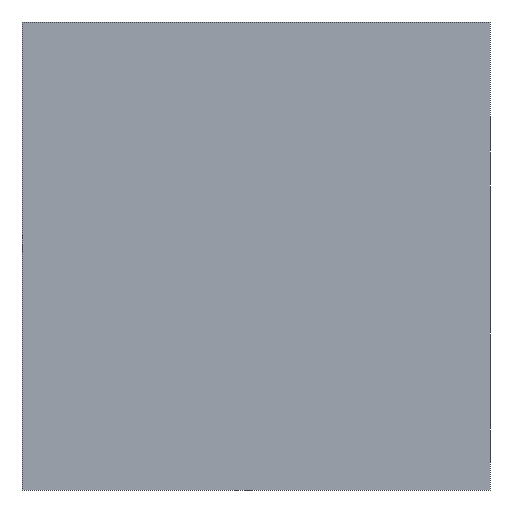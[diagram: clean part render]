
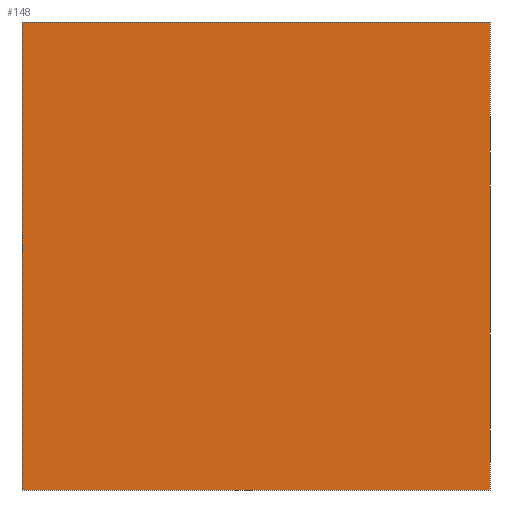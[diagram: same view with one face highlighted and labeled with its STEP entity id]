
A CAD part, front view. The second image highlights one B-rep face of the part: STEP entity #148.
In plain terms, the highlighted planar face has unit normal (0, -1, 0).
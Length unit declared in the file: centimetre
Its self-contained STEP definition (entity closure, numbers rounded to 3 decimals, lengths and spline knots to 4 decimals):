
#3 = LINE ( 'NONE', #405, #98 ) ;
#47 = EDGE_CURVE ( 'NONE', #498, #68, #103, .T. ) ;
#50 = FACE_OUTER_BOUND ( 'NONE', #279, .T. ) ;
#67 = CARTESIAN_POINT ( 'NONE',  ( 1000., 0., 1000. ) ) ;
#68 = VERTEX_POINT ( 'NONE', #214 ) ;
#95 = ORIENTED_EDGE ( 'NONE', *, *, #47, .T. ) ;
#98 = VECTOR ( 'NONE', #589, 100. ) ;
#103 = LINE ( 'NONE', #322, #287 ) ;
#104 = VECTOR ( 'NONE', #685, 100. ) ;
#113 = DIRECTION ( 'NONE',  ( 0., 0., 1. ) ) ;
#148 = ADVANCED_FACE ( 'NONE', ( #50 ), #450, .F. ) ;
#151 = CARTESIAN_POINT ( 'NONE',  ( 0., 0., 1000. ) ) ;
#181 = CARTESIAN_POINT ( 'NONE',  ( 0., 0., 1000. ) ) ;
#208 = EDGE_CURVE ( 'NONE', #516, #341, #465, .T. ) ;
#210 = DIRECTION ( 'NONE',  ( 0., 0., -1. ) ) ;
#214 = CARTESIAN_POINT ( 'NONE',  ( 0., 0., 0. ) ) ;
#279 = EDGE_LOOP ( 'NONE', ( #723, #620, #335, #95 ) ) ;
#287 = VECTOR ( 'NONE', #210, 100. ) ;
#322 = CARTESIAN_POINT ( 'NONE',  ( 0., 0., 1000. ) ) ;
#335 = ORIENTED_EDGE ( 'NONE', *, *, #707, .F. ) ;
#341 = VERTEX_POINT ( 'NONE', #358 ) ;
#358 = CARTESIAN_POINT ( 'NONE',  ( 1000., 0., 0. ) ) ;
#405 = CARTESIAN_POINT ( 'NONE',  ( 0., 0., 0. ) ) ;
#450 = PLANE ( 'NONE',  #460 ) ;
#451 = VECTOR ( 'NONE', #729, 100. ) ;
#458 = CARTESIAN_POINT ( 'NONE',  ( 1000., 0., 1000. ) ) ;
#460 = AXIS2_PLACEMENT_3D ( 'NONE', #673, #621, #113 ) ;
#465 = LINE ( 'NONE', #67, #104 ) ;
#498 = VERTEX_POINT ( 'NONE', #181 ) ;
#516 = VERTEX_POINT ( 'NONE', #458 ) ;
#589 = DIRECTION ( 'NONE',  ( 1., 0., 0. ) ) ;
#620 = ORIENTED_EDGE ( 'NONE', *, *, #208, .F. ) ;
#621 = DIRECTION ( 'NONE',  ( 0., 1., 0. ) ) ;
#622 = EDGE_CURVE ( 'NONE', #68, #341, #3, .T. ) ;
#673 = CARTESIAN_POINT ( 'NONE',  ( 0., 0., 1000. ) ) ;
#685 = DIRECTION ( 'NONE',  ( 0., 0., -1. ) ) ;
#707 = EDGE_CURVE ( 'NONE', #498, #516, #714, .T. ) ;
#714 = LINE ( 'NONE', #151, #451 ) ;
#723 = ORIENTED_EDGE ( 'NONE', *, *, #622, .T. ) ;
#729 = DIRECTION ( 'NONE',  ( 1., 0., 0. ) ) ;
